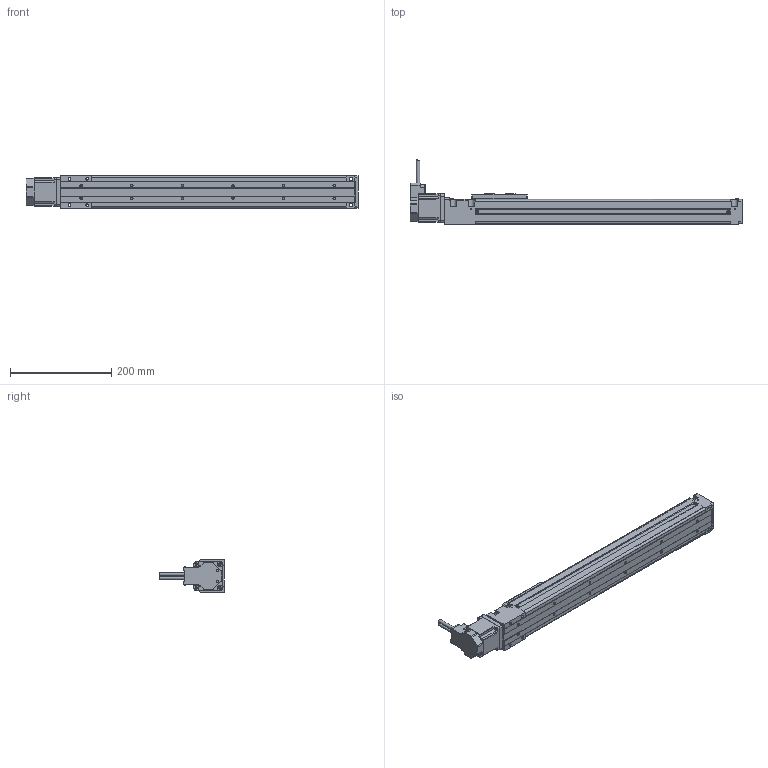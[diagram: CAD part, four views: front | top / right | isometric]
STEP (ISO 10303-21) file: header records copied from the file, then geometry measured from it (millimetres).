
FILE_DESCRIPTION(/* description */ ('Alibre Inc.'),/* implementation_level */ '2;1');
FILE_NAME(/* name */ 'export0',/* time_stamp */ '2010-04-01T10:44:54-04:00',/* author */ (''),/* organization */ (''),/* preprocessor_version */ 'ST-DEVELOPER v10',/* originating_system */ 'Alibre',/* authorisation */ '');
FILE_SCHEMA (('CONFIG_CONTROL_DESIGN'));
Length unit declared in the file: millimetre
Products named in the file (6): 1; 2; ID_1; ID_2; ID_3
Bounding box: 656 x 127.68 x 64 mm (x, y, z)
Volume: 752730.5 mm3; surface area: 339958.7 mm2
Topology: 4 solids, 4 shells, 834 faces, 2188 edges, 1370 vertices
Faces by surface type: plane 492, cylinder 216, cone 94, torus 28, sphere 4
Full cylindrical faces by diameter (mm): 3.5 x2, 4.5 x4, 5.5 x1, 6.5 x1, 8 x1, 38.13 x1, 38.15 x1
Entity records: 25532 total; most frequent: CARTESIAN_POINT 4636, ORIENTED_EDGE 4308, DIRECTION 3852, EDGE_CURVE 2154, VECTOR 1546, LINE 1546, AXIS2_PLACEMENT_3D 1409, VERTEX_POINT 1363
